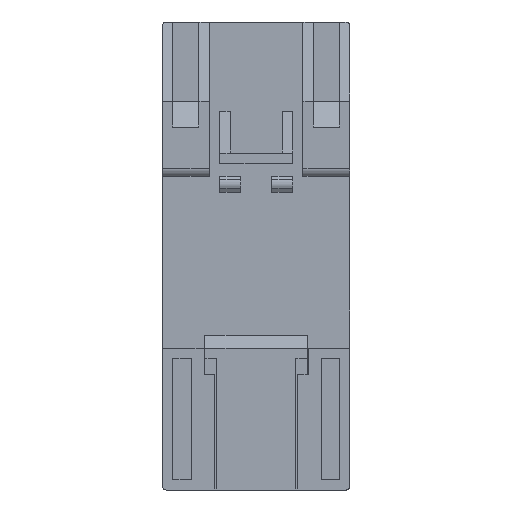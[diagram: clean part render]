
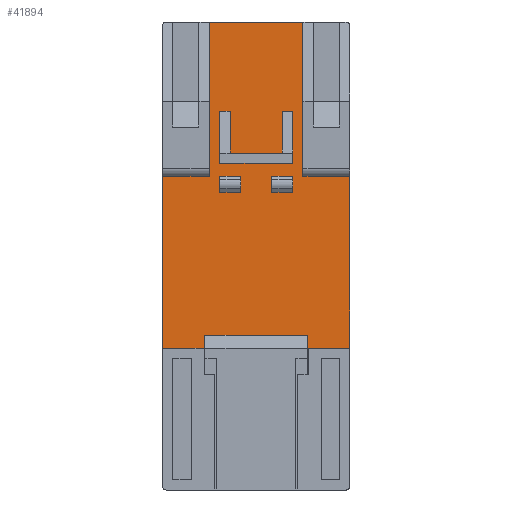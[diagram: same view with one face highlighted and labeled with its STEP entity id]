
A CAD part, left-side view. The second image highlights one B-rep face of the part: STEP entity #41894.
In plain terms, the highlighted planar face has unit normal (-1, 0, 0) as drawn and (0, 0, -1) by its records, which use the part's own axes.
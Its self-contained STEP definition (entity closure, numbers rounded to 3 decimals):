
#1873=FACE_BOUND('',#5456,.T.);
#1874=FACE_BOUND('',#5457,.T.);
#1875=FACE_BOUND('',#5458,.T.);
#3160=FACE_OUTER_BOUND('',#5455,.T.);
#5455=EDGE_LOOP('',(#27878,#27879,#27880,#27881,#27882,#27883,#27884,#27885,
#27886,#27887,#27888,#27889,#27890,#27891,#27892,#27893));
#5456=EDGE_LOOP('',(#27894,#27895,#27896,#27897,#27898,#27899,#27900,#27901));
#5457=EDGE_LOOP('',(#27902,#27903,#27904,#27905));
#5458=EDGE_LOOP('',(#27906,#27907,#27908,#27909));
#8088=LINE('',#58472,#12730);
#8102=LINE('',#58501,#12744);
#8171=LINE('',#58697,#12813);
#8172=LINE('',#58699,#12814);
#8173=LINE('',#58701,#12815);
#8174=LINE('',#58703,#12816);
#8175=LINE('',#58705,#12817);
#8176=LINE('',#58707,#12818);
#8177=LINE('',#58709,#12819);
#8178=LINE('',#58711,#12820);
#8179=LINE('',#58713,#12821);
#8180=LINE('',#58715,#12822);
#8181=LINE('',#58717,#12823);
#8182=LINE('',#58719,#12824);
#8183=LINE('',#58721,#12825);
#8184=LINE('',#58722,#12826);
#8185=LINE('',#58725,#12827);
#8186=LINE('',#58727,#12828);
#8187=LINE('',#58729,#12829);
#8188=LINE('',#58731,#12830);
#8189=LINE('',#58733,#12831);
#8190=LINE('',#58735,#12832);
#8191=LINE('',#58737,#12833);
#8192=LINE('',#58738,#12834);
#8193=LINE('',#58741,#12835);
#8194=LINE('',#58743,#12836);
#8195=LINE('',#58745,#12837);
#8196=LINE('',#58746,#12838);
#8197=LINE('',#58749,#12839);
#8198=LINE('',#58751,#12840);
#8199=LINE('',#58753,#12841);
#8200=LINE('',#58754,#12842);
#12730=VECTOR('',#47570,10.);
#12744=VECTOR('',#47586,10.);
#12813=VECTOR('',#47715,10.);
#12814=VECTOR('',#47716,10.);
#12815=VECTOR('',#47717,10.);
#12816=VECTOR('',#47718,10.);
#12817=VECTOR('',#47719,10.);
#12818=VECTOR('',#47720,10.);
#12819=VECTOR('',#47721,10.);
#12820=VECTOR('',#47722,10.);
#12821=VECTOR('',#47723,10.);
#12822=VECTOR('',#47724,10.);
#12823=VECTOR('',#47725,10.);
#12824=VECTOR('',#47726,10.);
#12825=VECTOR('',#47727,10.);
#12826=VECTOR('',#47728,10.);
#12827=VECTOR('',#47729,10.);
#12828=VECTOR('',#47730,10.);
#12829=VECTOR('',#47731,10.);
#12830=VECTOR('',#47732,10.);
#12831=VECTOR('',#47733,10.);
#12832=VECTOR('',#47734,10.);
#12833=VECTOR('',#47735,10.);
#12834=VECTOR('',#47736,10.);
#12835=VECTOR('',#47737,10.);
#12836=VECTOR('',#47738,10.);
#12837=VECTOR('',#47739,10.);
#12838=VECTOR('',#47740,10.);
#12839=VECTOR('',#47741,10.);
#12840=VECTOR('',#47742,10.);
#12841=VECTOR('',#47743,10.);
#12842=VECTOR('',#47744,10.);
#17359=VERTEX_POINT('',#58456);
#17366=VERTEX_POINT('',#58470);
#17380=VERTEX_POINT('',#58499);
#17477=VERTEX_POINT('',#58696);
#17478=VERTEX_POINT('',#58698);
#17479=VERTEX_POINT('',#58700);
#17480=VERTEX_POINT('',#58702);
#17481=VERTEX_POINT('',#58704);
#17482=VERTEX_POINT('',#58706);
#17483=VERTEX_POINT('',#58708);
#17484=VERTEX_POINT('',#58710);
#17485=VERTEX_POINT('',#58712);
#17486=VERTEX_POINT('',#58714);
#17487=VERTEX_POINT('',#58716);
#17488=VERTEX_POINT('',#58718);
#17489=VERTEX_POINT('',#58720);
#17490=VERTEX_POINT('',#58723);
#17491=VERTEX_POINT('',#58724);
#17492=VERTEX_POINT('',#58726);
#17493=VERTEX_POINT('',#58728);
#17494=VERTEX_POINT('',#58730);
#17495=VERTEX_POINT('',#58732);
#17496=VERTEX_POINT('',#58734);
#17497=VERTEX_POINT('',#58736);
#17498=VERTEX_POINT('',#58739);
#17499=VERTEX_POINT('',#58740);
#17500=VERTEX_POINT('',#58742);
#17501=VERTEX_POINT('',#58744);
#17502=VERTEX_POINT('',#58747);
#17503=VERTEX_POINT('',#58748);
#17504=VERTEX_POINT('',#58750);
#17505=VERTEX_POINT('',#58752);
#21512=EDGE_CURVE('',#17366,#17359,#8088,.T.);
#21526=EDGE_CURVE('',#17380,#17366,#8102,.T.);
#21624=EDGE_CURVE('',#17380,#17477,#8171,.T.);
#21625=EDGE_CURVE('',#17477,#17478,#8172,.T.);
#21626=EDGE_CURVE('',#17478,#17479,#8173,.T.);
#21627=EDGE_CURVE('',#17479,#17480,#8174,.T.);
#21628=EDGE_CURVE('',#17481,#17480,#8175,.T.);
#21629=EDGE_CURVE('',#17481,#17482,#8176,.T.);
#21630=EDGE_CURVE('',#17482,#17483,#8177,.T.);
#21631=EDGE_CURVE('',#17483,#17484,#8178,.T.);
#21632=EDGE_CURVE('',#17484,#17485,#8179,.T.);
#21633=EDGE_CURVE('',#17485,#17486,#8180,.T.);
#21634=EDGE_CURVE('',#17486,#17487,#8181,.T.);
#21635=EDGE_CURVE('',#17488,#17487,#8182,.T.);
#21636=EDGE_CURVE('',#17488,#17489,#8183,.T.);
#21637=EDGE_CURVE('',#17489,#17359,#8184,.T.);
#21638=EDGE_CURVE('',#17490,#17491,#8185,.T.);
#21639=EDGE_CURVE('',#17491,#17492,#8186,.T.);
#21640=EDGE_CURVE('',#17492,#17493,#8187,.T.);
#21641=EDGE_CURVE('',#17493,#17494,#8188,.T.);
#21642=EDGE_CURVE('',#17494,#17495,#8189,.T.);
#21643=EDGE_CURVE('',#17495,#17496,#8190,.T.);
#21644=EDGE_CURVE('',#17496,#17497,#8191,.T.);
#21645=EDGE_CURVE('',#17497,#17490,#8192,.T.);
#21646=EDGE_CURVE('',#17498,#17499,#8193,.T.);
#21647=EDGE_CURVE('',#17499,#17500,#8194,.T.);
#21648=EDGE_CURVE('',#17500,#17501,#8195,.T.);
#21649=EDGE_CURVE('',#17501,#17498,#8196,.T.);
#21650=EDGE_CURVE('',#17502,#17503,#8197,.T.);
#21651=EDGE_CURVE('',#17503,#17504,#8198,.T.);
#21652=EDGE_CURVE('',#17504,#17505,#8199,.T.);
#21653=EDGE_CURVE('',#17505,#17502,#8200,.T.);
#27878=ORIENTED_EDGE('',*,*,#21512,.F.);
#27879=ORIENTED_EDGE('',*,*,#21526,.F.);
#27880=ORIENTED_EDGE('',*,*,#21624,.T.);
#27881=ORIENTED_EDGE('',*,*,#21625,.T.);
#27882=ORIENTED_EDGE('',*,*,#21626,.T.);
#27883=ORIENTED_EDGE('',*,*,#21627,.T.);
#27884=ORIENTED_EDGE('',*,*,#21628,.F.);
#27885=ORIENTED_EDGE('',*,*,#21629,.T.);
#27886=ORIENTED_EDGE('',*,*,#21630,.T.);
#27887=ORIENTED_EDGE('',*,*,#21631,.T.);
#27888=ORIENTED_EDGE('',*,*,#21632,.T.);
#27889=ORIENTED_EDGE('',*,*,#21633,.T.);
#27890=ORIENTED_EDGE('',*,*,#21634,.T.);
#27891=ORIENTED_EDGE('',*,*,#21635,.F.);
#27892=ORIENTED_EDGE('',*,*,#21636,.T.);
#27893=ORIENTED_EDGE('',*,*,#21637,.T.);
#27894=ORIENTED_EDGE('',*,*,#21638,.T.);
#27895=ORIENTED_EDGE('',*,*,#21639,.T.);
#27896=ORIENTED_EDGE('',*,*,#21640,.T.);
#27897=ORIENTED_EDGE('',*,*,#21641,.T.);
#27898=ORIENTED_EDGE('',*,*,#21642,.T.);
#27899=ORIENTED_EDGE('',*,*,#21643,.T.);
#27900=ORIENTED_EDGE('',*,*,#21644,.T.);
#27901=ORIENTED_EDGE('',*,*,#21645,.T.);
#27902=ORIENTED_EDGE('',*,*,#21646,.T.);
#27903=ORIENTED_EDGE('',*,*,#21647,.T.);
#27904=ORIENTED_EDGE('',*,*,#21648,.T.);
#27905=ORIENTED_EDGE('',*,*,#21649,.T.);
#27906=ORIENTED_EDGE('',*,*,#21650,.T.);
#27907=ORIENTED_EDGE('',*,*,#21651,.T.);
#27908=ORIENTED_EDGE('',*,*,#21652,.T.);
#27909=ORIENTED_EDGE('',*,*,#21653,.T.);
#40225=PLANE('',#44433);
#41894=ADVANCED_FACE('',(#3160,#1873,#1874,#1875),#40225,.F.);
#44433=AXIS2_PLACEMENT_3D('',#58695,#47713,#47714);
#47570=DIRECTION('',(0.,-1.,0.));
#47586=DIRECTION('',(-1.,0.,0.));
#47713=DIRECTION('center_axis',(0.,0.,1.));
#47714=DIRECTION('ref_axis',(1.,0.,0.));
#47715=DIRECTION('',(0.,-1.,0.));
#47716=DIRECTION('',(1.,0.,0.));
#47717=DIRECTION('',(0.,-1.,0.));
#47718=DIRECTION('',(-1.,0.,0.));
#47719=DIRECTION('',(0.,1.,0.));
#47720=DIRECTION('',(-1.,0.,0.));
#47721=DIRECTION('',(0.,1.,0.));
#47722=DIRECTION('',(-1.,0.,0.));
#47723=DIRECTION('',(0.,-1.,0.));
#47724=DIRECTION('',(-1.,0.,0.));
#47725=DIRECTION('',(0.,1.,0.));
#47726=DIRECTION('',(1.,0.,0.));
#47727=DIRECTION('',(0.,1.,0.));
#47728=DIRECTION('',(1.,0.,0.));
#47729=DIRECTION('',(0.,-1.,0.));
#47730=DIRECTION('',(1.,0.,0.));
#47731=DIRECTION('',(0.,1.,0.));
#47732=DIRECTION('',(-1.,0.,0.));
#47733=DIRECTION('',(0.,-1.,0.));
#47734=DIRECTION('',(-1.,0.,0.));
#47735=DIRECTION('',(0.,1.,0.));
#47736=DIRECTION('',(-1.,0.,0.));
#47737=DIRECTION('',(-1.,0.,0.));
#47738=DIRECTION('',(0.,-1.,0.));
#47739=DIRECTION('',(1.,0.,0.));
#47740=DIRECTION('',(0.,1.,0.));
#47741=DIRECTION('',(-1.,0.,0.));
#47742=DIRECTION('',(0.,-1.,0.));
#47743=DIRECTION('',(1.,0.,0.));
#47744=DIRECTION('',(0.,1.,0.));
#58456=CARTESIAN_POINT('',(-9.,18.3,0.));
#58470=CARTESIAN_POINT('',(-9.,45.,0.));
#58472=CARTESIAN_POINT('',(-9.,23.,0.));
#58499=CARTESIAN_POINT('',(9.,45.,0.));
#58501=CARTESIAN_POINT('',(9.,45.,0.));
#58695=CARTESIAN_POINT('Origin',(0.,1.,0.));
#58696=CARTESIAN_POINT('',(9.,18.3,0.));
#58697=CARTESIAN_POINT('',(9.,3.,0.));
#58698=CARTESIAN_POINT('',(18.,18.3,0.));
#58699=CARTESIAN_POINT('',(0.,18.3,0.));
#58700=CARTESIAN_POINT('',(18.,-17.7,0.));
#58701=CARTESIAN_POINT('',(18.,-22.,0.));
#58702=CARTESIAN_POINT('',(10.,-17.7,0.));
#58703=CARTESIAN_POINT('',(0.,-17.7,0.));
#58704=CARTESIAN_POINT('',(10.,-45.,0.));
#58705=CARTESIAN_POINT('',(10.,-45.,0.));
#58706=CARTESIAN_POINT('',(4.,-45.,0.));
#58707=CARTESIAN_POINT('',(-9.,-45.,0.));
#58708=CARTESIAN_POINT('',(4.,-43.,0.));
#58709=CARTESIAN_POINT('',(4.,-21.717,0.));
#58710=CARTESIAN_POINT('',(-4.,-43.,0.));
#58711=CARTESIAN_POINT('',(0.,-43.,0.));
#58712=CARTESIAN_POINT('',(-4.,-45.,0.));
#58713=CARTESIAN_POINT('',(-4.,-21.717,0.));
#58714=CARTESIAN_POINT('',(-10.,-45.,0.));
#58715=CARTESIAN_POINT('',(-9.,-45.,0.));
#58716=CARTESIAN_POINT('',(-10.,-17.7,0.));
#58717=CARTESIAN_POINT('',(-10.,-45.,0.));
#58718=CARTESIAN_POINT('',(-18.,-17.7,0.));
#58719=CARTESIAN_POINT('',(0.,-17.7,0.));
#58720=CARTESIAN_POINT('',(-18.,18.3,0.));
#58721=CARTESIAN_POINT('',(-18.,23.,0.));
#58722=CARTESIAN_POINT('',(0.,18.3,0.));
#58723=CARTESIAN_POINT('',(-7.,27.8,0.));
#58724=CARTESIAN_POINT('',(-7.,17.8,0.));
#58725=CARTESIAN_POINT('',(-7.,8.9,0.));
#58726=CARTESIAN_POINT('',(7.,17.8,0.));
#58727=CARTESIAN_POINT('',(3.5,17.8,0.));
#58728=CARTESIAN_POINT('',(7.,27.8,0.));
#58729=CARTESIAN_POINT('',(7.,13.9,0.));
#58730=CARTESIAN_POINT('',(5.,27.8,0.));
#58731=CARTESIAN_POINT('',(2.5,27.8,0.));
#58732=CARTESIAN_POINT('',(5.,19.8,0.));
#58733=CARTESIAN_POINT('',(5.,9.9,0.));
#58734=CARTESIAN_POINT('',(-5.,19.8,0.));
#58735=CARTESIAN_POINT('',(-2.5,19.8,0.));
#58736=CARTESIAN_POINT('',(-5.,27.8,0.));
#58737=CARTESIAN_POINT('',(-5.,13.9,0.));
#58738=CARTESIAN_POINT('',(-3.5,27.8,0.));
#58739=CARTESIAN_POINT('',(7.,15.3,0.));
#58740=CARTESIAN_POINT('',(3.,15.3,0.));
#58741=CARTESIAN_POINT('',(3.5,15.3,0.));
#58742=CARTESIAN_POINT('',(3.,12.3,0.));
#58743=CARTESIAN_POINT('',(3.,6.9,0.));
#58744=CARTESIAN_POINT('',(7.,12.3,0.));
#58745=CARTESIAN_POINT('',(3.5,12.3,0.));
#58746=CARTESIAN_POINT('',(7.,6.9,0.));
#58747=CARTESIAN_POINT('',(-3.,15.3,0.));
#58748=CARTESIAN_POINT('',(-7.,15.3,0.));
#58749=CARTESIAN_POINT('',(-3.5,15.3,0.));
#58750=CARTESIAN_POINT('',(-7.,12.3,0.));
#58751=CARTESIAN_POINT('',(-7.,6.9,0.));
#58752=CARTESIAN_POINT('',(-3.,12.3,0.));
#58753=CARTESIAN_POINT('',(-3.5,12.3,0.));
#58754=CARTESIAN_POINT('',(-3.,6.9,0.));
